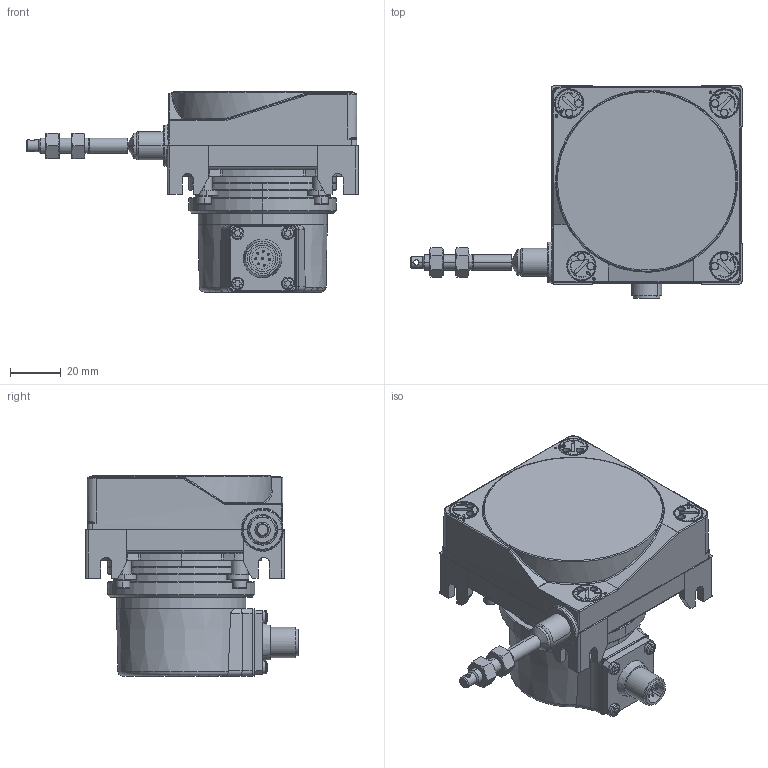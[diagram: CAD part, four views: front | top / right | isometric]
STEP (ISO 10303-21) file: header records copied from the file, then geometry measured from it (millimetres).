
FILE_DESCRIPTION (( 'STEP AP203' ), '1' );
FILE_NAME ('D8.1503.2Z14.4096.STEP', '2016-04-20T12:59:26', ( 'LauferA' ), ( 'Microsoft' ), 'SwSTEP 2.0', 'SolidWorks 2013', '' );
FILE_SCHEMA (( 'CONFIG_CONTROL_DESIGN' ));
Length unit declared in the file: millimetre
Products named in the file (1): D8.1503.2Z14.4096
Bounding box: 130.6 x 83.5 x 78.7 mm (x, y, z)
Surface area: 59618.4 mm2 (no closed solid volume)
Topology: 0 solids, 41 shells, 1112 faces, 3127 edges, 1992 vertices
Faces by surface type: cylinder 369, plane 331, bspline 185, cone 162, torus 37, sphere 28
Entity records: 46190 total; most frequent: CARTESIAN_POINT 19245, ORIENTED_EDGE 5464, DIRECTION 5460, EDGE_CURVE 3019, AXIS2_PLACEMENT_3D 2137, VERTEX_POINT 1976, EDGE_LOOP 1277, CIRCLE 1209
